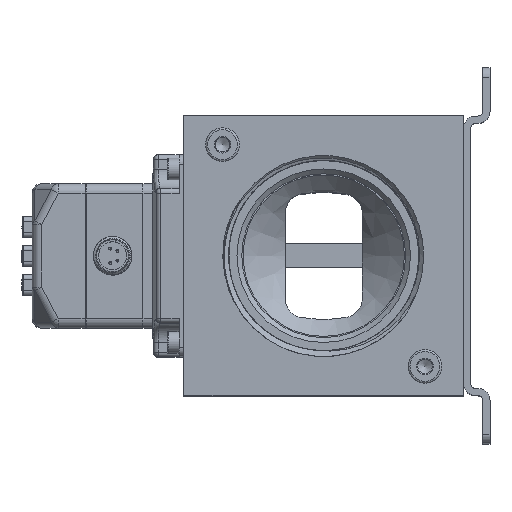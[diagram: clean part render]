
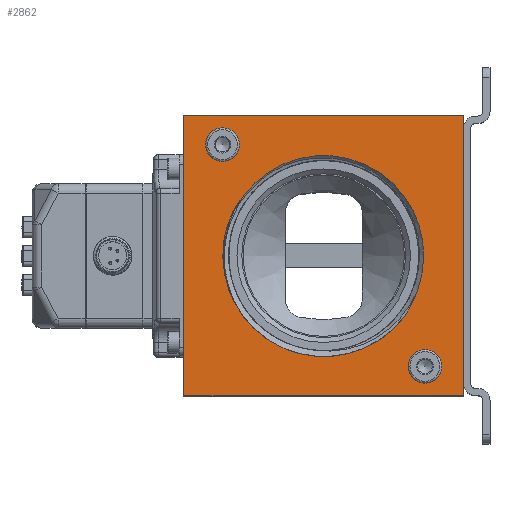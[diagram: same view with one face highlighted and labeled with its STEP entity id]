
A CAD part, top view. The second image highlights one B-rep face of the part: STEP entity #2862.
In plain terms, the highlighted planar face has unit normal (0, 0, 1).
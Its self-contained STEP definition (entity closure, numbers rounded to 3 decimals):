
#1395=PLANE('',#24862);
#2191=FACE_BOUND('',#5861,.T.);
#2192=FACE_BOUND('',#5862,.T.);
#2193=FACE_BOUND('',#5863,.T.);
#2194=FACE_BOUND('',#5864,.T.);
#2862=ADVANCED_FACE('',(#2191,#2192,#2193,#2194),#1395,.F.);
#5861=EDGE_LOOP('',(#8942));
#5862=EDGE_LOOP('',(#8943,#8944,#8945,#8946));
#5863=EDGE_LOOP('',(#8947));
#5864=EDGE_LOOP('',(#8948,#8949,#8950,#8951));
#7668=B_SPLINE_CURVE_WITH_KNOTS('',3,(#34377,#34378,#34379,#34380),
 .UNSPECIFIED.,.F.,.F.,(4,4),(0.,1.),.UNSPECIFIED.);
#7669=B_SPLINE_CURVE_WITH_KNOTS('',3,(#34385,#34386,#34387,#34388),
 .UNSPECIFIED.,.F.,.F.,(4,4),(0.,1.),.UNSPECIFIED.);
#7989=CIRCLE('',#24858,3.5);
#7990=CIRCLE('',#24859,3.5);
#7991=CIRCLE('',#24860,20.75);
#7992=CIRCLE('',#24861,20.955);
#8942=ORIENTED_EDGE('',*,*,#17606,.T.);
#8943=ORIENTED_EDGE('',*,*,#17607,.F.);
#8944=ORIENTED_EDGE('',*,*,#17608,.F.);
#8945=ORIENTED_EDGE('',*,*,#17609,.F.);
#8946=ORIENTED_EDGE('',*,*,#17610,.F.);
#8947=ORIENTED_EDGE('',*,*,#17611,.T.);
#8948=ORIENTED_EDGE('',*,*,#17612,.F.);
#8949=ORIENTED_EDGE('',*,*,#17613,.T.);
#8950=ORIENTED_EDGE('',*,*,#17614,.F.);
#8951=ORIENTED_EDGE('',*,*,#17615,.F.);
#15450=VERTEX_POINT('',#34366);
#15451=VERTEX_POINT('',#34368);
#15452=VERTEX_POINT('',#34369);
#15453=VERTEX_POINT('',#34371);
#15454=VERTEX_POINT('',#34373);
#15455=VERTEX_POINT('',#34376);
#15456=VERTEX_POINT('',#34381);
#15457=VERTEX_POINT('',#34382);
#15458=VERTEX_POINT('',#34384);
#15459=VERTEX_POINT('',#34389);
#17606=EDGE_CURVE('',#15450,#15450,#7989,.T.);
#17607=EDGE_CURVE('',#15451,#15452,#20856,.T.);
#17608=EDGE_CURVE('',#15453,#15451,#20857,.T.);
#17609=EDGE_CURVE('',#15454,#15453,#20858,.T.);
#17610=EDGE_CURVE('',#15452,#15454,#20859,.T.);
#17611=EDGE_CURVE('',#15455,#15455,#7990,.T.);
#17612=EDGE_CURVE('',#15456,#15457,#7668,.T.);
#17613=EDGE_CURVE('',#15456,#15458,#7991,.T.);
#17614=EDGE_CURVE('',#15459,#15458,#7669,.T.);
#17615=EDGE_CURVE('',#15457,#15459,#7992,.T.);
#20856=LINE('',#34367,#22839);
#20857=LINE('',#34370,#22840);
#20858=LINE('',#34372,#22841);
#20859=LINE('',#34374,#22842);
#22839=VECTOR('',#27252,1.);
#22840=VECTOR('',#27253,1.);
#22841=VECTOR('',#27254,1.);
#22842=VECTOR('',#27255,1.);
#24858=AXIS2_PLACEMENT_3D('',#34365,#27250,#27251);
#24859=AXIS2_PLACEMENT_3D('',#34375,#27256,#27257);
#24860=AXIS2_PLACEMENT_3D('',#34383,#27258,#27259);
#24861=AXIS2_PLACEMENT_3D('',#34390,#27260,#27261);
#24862=AXIS2_PLACEMENT_3D('',#34391,#27262,#27263);
#27250=DIRECTION('',(0.,0.,-1.));
#27251=DIRECTION('',(-1.,0.,0.));
#27252=DIRECTION('',(-1.,0.,0.));
#27253=DIRECTION('',(0.,-1.,0.));
#27254=DIRECTION('',(1.,0.,0.));
#27255=DIRECTION('',(0.,1.,0.));
#27256=DIRECTION('',(0.,0.,-1.));
#27257=DIRECTION('',(-1.,0.,0.));
#27258=DIRECTION('',(0.,0.,-1.));
#27259=DIRECTION('',(-1.,0.,0.));
#27260=DIRECTION('',(0.,0.,1.));
#27261=DIRECTION('',(-1.,0.,0.));
#27262=DIRECTION('',(0.,0.,-1.));
#27263=DIRECTION('',(1.,0.,0.));
#34365=CARTESIAN_POINT('',(50.5,4.5,14.));
#34366=CARTESIAN_POINT('',(47.,4.5,14.));
#34367=CARTESIAN_POINT('',(29.5,-1.5,14.));
#34368=CARTESIAN_POINT('',(58.5,-1.5,14.));
#34369=CARTESIAN_POINT('',(0.5,-1.5,14.));
#34370=CARTESIAN_POINT('',(58.5,27.5,14.));
#34371=CARTESIAN_POINT('',(58.5,56.5,14.));
#34372=CARTESIAN_POINT('',(29.5,56.5,14.));
#34373=CARTESIAN_POINT('',(0.5,56.5,14.));
#34374=CARTESIAN_POINT('',(0.5,27.5,14.));
#34375=CARTESIAN_POINT('',(8.5,50.5,14.));
#34376=CARTESIAN_POINT('',(5.,50.5,14.));
#34377=CARTESIAN_POINT('',(10.117,20.092,14.));
#34378=CARTESIAN_POINT('',(10.778,18.169,14.));
#34379=CARTESIAN_POINT('',(11.718,16.358,14.));
#34380=CARTESIAN_POINT('',(12.904,14.707,14.));
#34381=CARTESIAN_POINT('',(10.117,20.092,14.));
#34382=CARTESIAN_POINT('',(12.904,14.707,14.));
#34383=CARTESIAN_POINT('',(29.5,27.5,14.));
#34384=CARTESIAN_POINT('',(48.883,20.092,14.));
#34385=CARTESIAN_POINT('',(46.096,14.707,14.));
#34386=CARTESIAN_POINT('',(47.282,16.358,14.));
#34387=CARTESIAN_POINT('',(48.222,18.169,14.));
#34388=CARTESIAN_POINT('',(48.883,20.092,14.));
#34389=CARTESIAN_POINT('',(46.096,14.707,14.));
#34390=CARTESIAN_POINT('',(29.5,27.5,14.));
#34391=CARTESIAN_POINT('',(29.5,27.5,14.));
